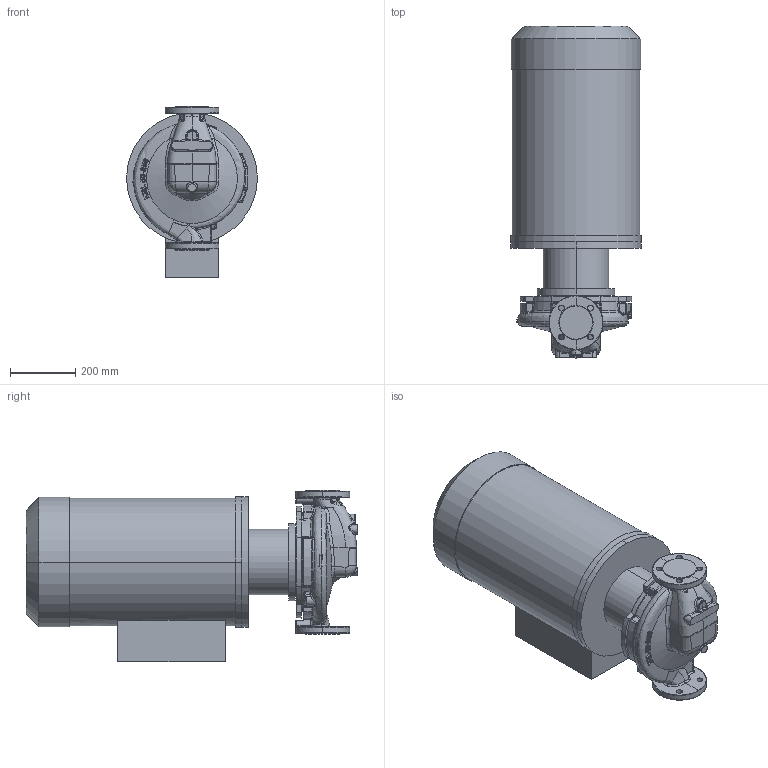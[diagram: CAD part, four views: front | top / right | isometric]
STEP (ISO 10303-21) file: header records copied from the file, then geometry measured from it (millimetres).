
FILE_DESCRIPTION (( 'STEP AP214' ), '1' );
FILE_NAME ('KRL 50-250-2-30.STEP', '2026-03-23T07:38:35', ( '' ), ( '' ), 'SwSTEP 2.0', 'SolidWorks 2016', '' );
FILE_SCHEMA (( 'AUTOMOTIVE_DESIGN' ));
Length unit declared in the file: millimetre
Products named in the file (1): KRL 50-250-2-30
Bounding box: 400 x 1015.3 x 525 mm (x, y, z)
Volume: 104651910.7 mm3; surface area: 2223193.8 mm2
Topology: 4 solids, 4 shells, 873 faces, 2158 edges, 1302 vertices
Faces by surface type: bspline 456, plane 150, cylinder 141, sphere 47, cone 44, torus 35
Entity records: 74287 total; most frequent: CARTESIAN_POINT 47844, ORIENTED_EDGE 4272, DIRECTION 2411, EDGE_CURVE 2136, VERTEX_POINT 1302, AXIS2_PLACEMENT_3D 987, B_SPLINE_CURVE_WITH_KNOTS 960, EDGE_LOOP 920
